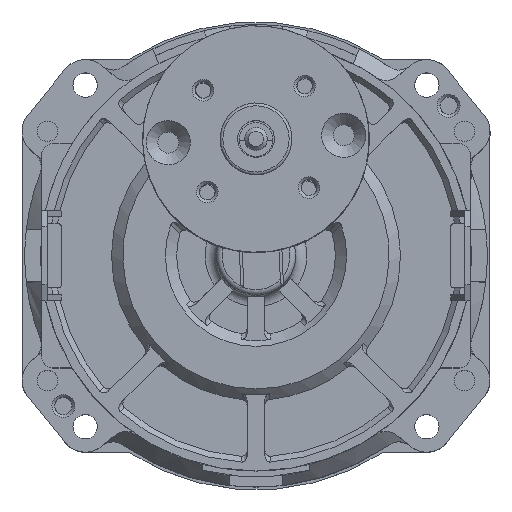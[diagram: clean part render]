
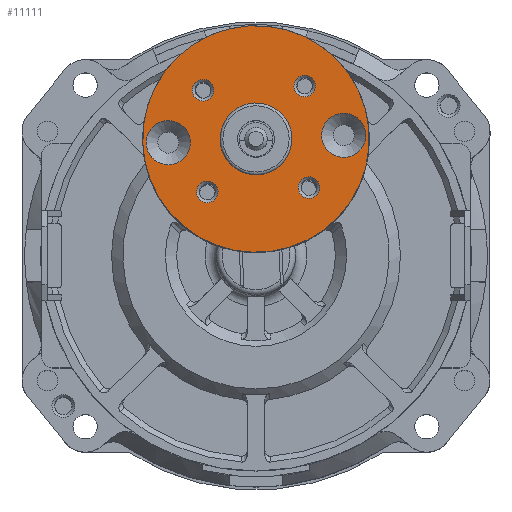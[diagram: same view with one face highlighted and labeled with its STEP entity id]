
A CAD part, top view. The second image highlights one B-rep face of the part: STEP entity #11111.
In plain terms, the highlighted planar face has unit normal (0, 0, 1).
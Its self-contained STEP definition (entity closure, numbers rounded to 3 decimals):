
#634=FACE_BOUND('',#2373,.T.);
#635=FACE_BOUND('',#2374,.T.);
#636=FACE_BOUND('',#2375,.T.);
#637=FACE_BOUND('',#2376,.T.);
#638=FACE_BOUND('',#2377,.T.);
#639=FACE_BOUND('',#2378,.T.);
#640=FACE_BOUND('',#2379,.T.);
#1537=FACE_OUTER_BOUND('',#2372,.T.);
#2372=EDGE_LOOP('',(#10037));
#2373=EDGE_LOOP('',(#10038));
#2374=EDGE_LOOP('',(#10039));
#2375=EDGE_LOOP('',(#10040));
#2376=EDGE_LOOP('',(#10041));
#2377=EDGE_LOOP('',(#10042));
#2378=EDGE_LOOP('',(#10043));
#2379=EDGE_LOOP('',(#10044));
#4367=CIRCLE('',#12290,3.9);
#4370=CIRCLE('',#12295,3.9);
#4374=CIRCLE('',#12301,1.9);
#4375=CIRCLE('',#12303,20.);
#4376=CIRCLE('',#12304,1.9);
#4377=CIRCLE('',#12305,1.9);
#4378=CIRCLE('',#12306,6.35);
#4379=CIRCLE('',#12307,1.9);
#5450=VERTEX_POINT('',#20877);
#5453=VERTEX_POINT('',#20885);
#5457=VERTEX_POINT('',#20895);
#5458=VERTEX_POINT('',#20898);
#5459=VERTEX_POINT('',#20900);
#5460=VERTEX_POINT('',#20902);
#5461=VERTEX_POINT('',#20904);
#5462=VERTEX_POINT('',#20906);
#6995=EDGE_CURVE('',#5450,#5450,#4367,.T.);
#6998=EDGE_CURVE('',#5453,#5453,#4370,.T.);
#7002=EDGE_CURVE('',#5457,#5457,#4374,.T.);
#7003=EDGE_CURVE('',#5458,#5458,#4375,.T.);
#7004=EDGE_CURVE('',#5459,#5459,#4376,.T.);
#7005=EDGE_CURVE('',#5460,#5460,#4377,.T.);
#7006=EDGE_CURVE('',#5461,#5461,#4378,.T.);
#7007=EDGE_CURVE('',#5462,#5462,#4379,.T.);
#10037=ORIENTED_EDGE('',*,*,#7003,.F.);
#10038=ORIENTED_EDGE('',*,*,#6995,.T.);
#10039=ORIENTED_EDGE('',*,*,#6998,.T.);
#10040=ORIENTED_EDGE('',*,*,#7004,.F.);
#10041=ORIENTED_EDGE('',*,*,#7005,.F.);
#10042=ORIENTED_EDGE('',*,*,#7006,.T.);
#10043=ORIENTED_EDGE('',*,*,#7007,.F.);
#10044=ORIENTED_EDGE('',*,*,#7002,.F.);
#10489=PLANE('',#12302);
#11111=ADVANCED_FACE('',(#1537,#634,#635,#636,#637,#638,#639,#640),#10489,
 .F.);
#12290=AXIS2_PLACEMENT_3D('',#20878,#15335,#15336);
#12295=AXIS2_PLACEMENT_3D('',#20886,#15345,#15346);
#12301=AXIS2_PLACEMENT_3D('',#20896,#15357,#15358);
#12302=AXIS2_PLACEMENT_3D('',#20897,#15359,#15360);
#12303=AXIS2_PLACEMENT_3D('',#20899,#15361,#15362);
#12304=AXIS2_PLACEMENT_3D('',#20901,#15363,#15364);
#12305=AXIS2_PLACEMENT_3D('',#20903,#15365,#15366);
#12306=AXIS2_PLACEMENT_3D('',#20905,#15367,#15368);
#12307=AXIS2_PLACEMENT_3D('',#20907,#15369,#15370);
#15335=DIRECTION('center_axis',(0.,0.,-1.));
#15336=DIRECTION('ref_axis',(-1.,0.,0.));
#15345=DIRECTION('center_axis',(0.,0.,-1.));
#15346=DIRECTION('ref_axis',(1.,0.,0.));
#15357=DIRECTION('center_axis',(0.,0.,1.));
#15358=DIRECTION('ref_axis',(0.,-1.,0.));
#15359=DIRECTION('center_axis',(0.,0.,-1.));
#15360=DIRECTION('ref_axis',(-1.,0.,0.));
#15361=DIRECTION('center_axis',(0.,0.,-1.));
#15362=DIRECTION('ref_axis',(-1.,0.,0.));
#15363=DIRECTION('center_axis',(0.,0.,1.));
#15364=DIRECTION('ref_axis',(1.,0.,0.));
#15365=DIRECTION('center_axis',(0.,0.,1.));
#15366=DIRECTION('ref_axis',(-1.,0.,0.));
#15367=DIRECTION('center_axis',(0.,0.,-1.));
#15368=DIRECTION('ref_axis',(-1.,0.,0.));
#15369=DIRECTION('center_axis',(0.,0.,1.));
#15370=DIRECTION('ref_axis',(0.,1.,0.));
#20877=CARTESIAN_POINT('',(-19.4,0.,12.6));
#20878=CARTESIAN_POINT('Origin',(-15.5,0.,12.6));
#20885=CARTESIAN_POINT('',(19.4,0.,12.6));
#20886=CARTESIAN_POINT('Origin',(15.5,0.,12.6));
#20895=CARTESIAN_POINT('',(-8.98,10.88,12.6));
#20896=CARTESIAN_POINT('Origin',(-8.98,8.98,12.6));
#20897=CARTESIAN_POINT('Origin',(0.,0.,12.6));
#20898=CARTESIAN_POINT('',(20.,0.,12.6));
#20899=CARTESIAN_POINT('Origin',(0.,0.,12.6));
#20900=CARTESIAN_POINT('',(-10.88,-8.98,12.6));
#20901=CARTESIAN_POINT('Origin',(-8.98,-8.98,12.6));
#20902=CARTESIAN_POINT('',(10.88,8.98,12.6));
#20903=CARTESIAN_POINT('Origin',(8.98,8.98,12.6));
#20904=CARTESIAN_POINT('',(6.35,0.,12.6));
#20905=CARTESIAN_POINT('Origin',(0.,0.,12.6));
#20906=CARTESIAN_POINT('',(8.98,-10.88,12.6));
#20907=CARTESIAN_POINT('Origin',(8.98,-8.98,12.6));
